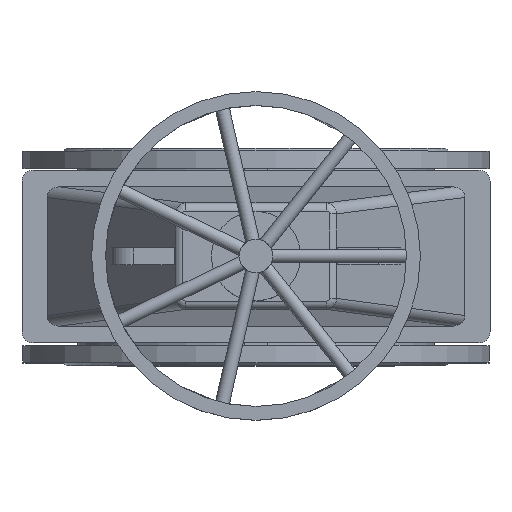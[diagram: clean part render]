
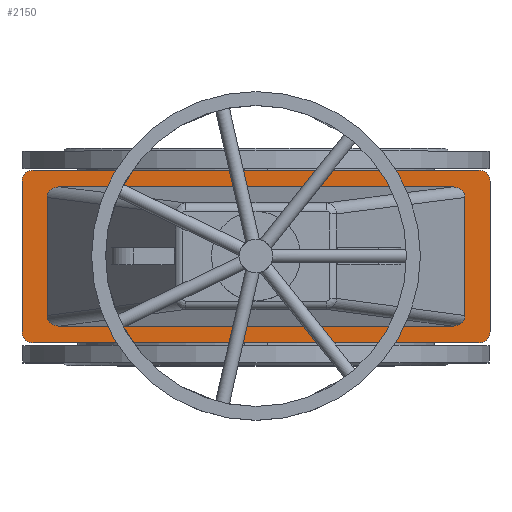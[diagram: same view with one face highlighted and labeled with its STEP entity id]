
A CAD part, top view. The second image highlights one B-rep face of the part: STEP entity #2150.
In plain terms, the highlighted planar face has unit normal (0, 0, 1).
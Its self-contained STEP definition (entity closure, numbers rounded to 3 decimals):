
#2150=ADVANCED_FACE('',(#4766,#4768),#4770,.T.);
#4766=FACE_BOUND('',#4767,.T.);
#4767=EDGE_LOOP('',(#7901,#7902,#7903,#7904,#7905,#7906,#7907,#7908));
#4768=FACE_BOUND('',#4769,.T.);
#4769=EDGE_LOOP('',(#7909,#7910,#7911,#7912,#7913,#7914,#7915,#7916));
#4770=PLANE('',#4771);
#4771=AXIS2_PLACEMENT_3D('',#4772,#4773,#4774);
#4772=CARTESIAN_POINT('',(0.,0.,650.));
#4773=DIRECTION('',(0.,-0.,1.));
#4774=DIRECTION('',(0.,1.,0.));
#7901=ORIENTED_EDGE('',*,*,#8977,.F.);
#7902=ORIENTED_EDGE('',*,*,#8990,.T.);
#7903=ORIENTED_EDGE('',*,*,#8989,.F.);
#7904=ORIENTED_EDGE('',*,*,#8987,.T.);
#7905=ORIENTED_EDGE('',*,*,#8985,.F.);
#7906=ORIENTED_EDGE('',*,*,#8983,.T.);
#7907=ORIENTED_EDGE('',*,*,#8981,.F.);
#7908=ORIENTED_EDGE('',*,*,#8978,.T.);
#7909=ORIENTED_EDGE('',*,*,#8991,.F.);
#7910=ORIENTED_EDGE('',*,*,#8992,.F.);
#7911=ORIENTED_EDGE('',*,*,#8993,.F.);
#7912=ORIENTED_EDGE('',*,*,#8994,.F.);
#7913=ORIENTED_EDGE('',*,*,#8995,.F.);
#7914=ORIENTED_EDGE('',*,*,#8996,.F.);
#7915=ORIENTED_EDGE('',*,*,#8997,.F.);
#7916=ORIENTED_EDGE('',*,*,#8998,.F.);
#8977=EDGE_CURVE('',#10327,#10325,#10329,.F.);
#8978=EDGE_CURVE('',#10330,#10325,#10331,.T.);
#8981=EDGE_CURVE('',#10330,#10333,#10335,.F.);
#8983=EDGE_CURVE('',#10336,#10333,#10338,.T.);
#8985=EDGE_CURVE('',#10336,#10339,#10341,.F.);
#8987=EDGE_CURVE('',#10342,#10339,#10344,.T.);
#8989=EDGE_CURVE('',#10342,#10345,#10347,.F.);
#8990=EDGE_CURVE('',#10327,#10345,#10348,.T.);
#8991=EDGE_CURVE('',#10349,#10350,#10351,.F.);
#8992=EDGE_CURVE('',#10352,#10349,#10353,.T.);
#8993=EDGE_CURVE('',#10354,#10352,#10355,.T.);
#8994=EDGE_CURVE('',#10356,#10354,#10357,.T.);
#8995=EDGE_CURVE('',#10358,#10356,#10359,.F.);
#8996=EDGE_CURVE('',#10360,#10358,#10361,.T.);
#8997=EDGE_CURVE('',#10362,#10360,#10363,.T.);
#8998=EDGE_CURVE('',#10350,#10362,#10364,.T.);
#10325=VERTEX_POINT('',#13779);
#10327=VERTEX_POINT('',#13783);
#10329=CIRCLE('',#13787,20.);
#10330=VERTEX_POINT('',#13791);
#10331=LINE('',#13792,#13793);
#10333=VERTEX_POINT('',#13798);
#10335=CIRCLE('',#13802,20.);
#10336=VERTEX_POINT('',#13806);
#10338=LINE('',#13810,#13811);
#10339=VERTEX_POINT('',#13813);
#10341=CIRCLE('',#13817,20.);
#10342=VERTEX_POINT('',#13821);
#10344=LINE('',#13825,#13826);
#10345=VERTEX_POINT('',#13828);
#10347=CIRCLE('',#13832,20.);
#10348=LINE('',#13836,#13837);
#10349=VERTEX_POINT('',#13839);
#10350=VERTEX_POINT('',#13840);
#10351=(BOUNDED_CURVE()B_SPLINE_CURVE(3,
(#13841,#13842,#13843,#13844),
.UNSPECIFIED.,.F.,.F.)B_SPLINE_CURVE_WITH_KNOTS((4,4),
(0.,1.),
.UNSPECIFIED.)CURVE()GEOMETRIC_REPRESENTATION_ITEM()RATIONAL_B_SPLINE_CURVE((1.,
0.816,0.816,1.))REPRESENTATION_ITEM(''));
#10352=VERTEX_POINT('',#13845);
#10353=LINE('',#13846,#13847);
#10354=VERTEX_POINT('',#13849);
#10355=(BOUNDED_CURVE()B_SPLINE_CURVE(3,
(#13850,#13851,#13852,#13853),
.UNSPECIFIED.,.F.,.F.)B_SPLINE_CURVE_WITH_KNOTS((4,4),
(0.,1.),
.UNSPECIFIED.)CURVE()GEOMETRIC_REPRESENTATION_ITEM()RATIONAL_B_SPLINE_CURVE((1.,
0.816,0.816,1.))REPRESENTATION_ITEM(''));
#10356=VERTEX_POINT('',#13854);
#10357=LINE('',#13855,#13856);
#10358=VERTEX_POINT('',#13858);
#10359=(BOUNDED_CURVE()B_SPLINE_CURVE(3,
(#13859,#13860,#13861,#13862),
.UNSPECIFIED.,.F.,.F.)B_SPLINE_CURVE_WITH_KNOTS((4,4),
(0.,1.),
.UNSPECIFIED.)CURVE()GEOMETRIC_REPRESENTATION_ITEM()RATIONAL_B_SPLINE_CURVE((1.,
0.816,0.816,1.))REPRESENTATION_ITEM(''));
#10360=VERTEX_POINT('',#13863);
#10361=LINE('',#13864,#13865);
#10362=VERTEX_POINT('',#13867);
#10363=(BOUNDED_CURVE()B_SPLINE_CURVE(3,
(#13868,#13869,#13870,#13871),
.UNSPECIFIED.,.F.,.F.)B_SPLINE_CURVE_WITH_KNOTS((4,4),
(0.,1.),
.UNSPECIFIED.)CURVE()GEOMETRIC_REPRESENTATION_ITEM()RATIONAL_B_SPLINE_CURVE((1.,
0.816,0.816,1.))REPRESENTATION_ITEM(''));
#10364=LINE('',#13872,#13873);
#13779=CARTESIAN_POINT('',(-420.,-135.,650.));
#13783=CARTESIAN_POINT('',(-400.,-155.,650.));
#13787=AXIS2_PLACEMENT_3D('',#13788,#13789,#13790);
#13788=CARTESIAN_POINT('',(-400.,-135.,650.));
#13789=DIRECTION('',(0.,-0.,1.));
#13790=DIRECTION('',(-1.,0.,0.));
#13791=CARTESIAN_POINT('',(-420.,135.,650.));
#13792=CARTESIAN_POINT('',(-420.,135.,650.));
#13793=VECTOR('',#13794,1.);
#13794=DIRECTION('',(0.,-1.,0.));
#13798=CARTESIAN_POINT('',(-400.,155.,650.));
#13802=AXIS2_PLACEMENT_3D('',#13803,#13804,#13805);
#13803=CARTESIAN_POINT('',(-400.,135.,650.));
#13804=DIRECTION('',(0.,-0.,1.));
#13805=DIRECTION('',(0.,1.,0.));
#13806=CARTESIAN_POINT('',(400.,155.,650.));
#13810=CARTESIAN_POINT('',(400.,155.,650.));
#13811=VECTOR('',#13812,1.);
#13812=DIRECTION('',(-1.,0.,0.));
#13813=CARTESIAN_POINT('',(420.,135.,650.));
#13817=AXIS2_PLACEMENT_3D('',#13818,#13819,#13820);
#13818=CARTESIAN_POINT('',(400.,135.,650.));
#13819=DIRECTION('',(0.,-0.,1.));
#13820=DIRECTION('',(1.,0.,0.));
#13821=CARTESIAN_POINT('',(420.,-135.,650.));
#13825=CARTESIAN_POINT('',(420.,-135.,650.));
#13826=VECTOR('',#13827,1.);
#13827=DIRECTION('',(0.,1.,0.));
#13828=CARTESIAN_POINT('',(400.,-155.,650.));
#13832=AXIS2_PLACEMENT_3D('',#13833,#13834,#13835);
#13833=CARTESIAN_POINT('',(400.,-135.,650.));
#13834=DIRECTION('',(0.,-0.,1.));
#13835=DIRECTION('',(0.,-1.,0.));
#13836=CARTESIAN_POINT('',(-400.,-155.,650.));
#13837=VECTOR('',#13838,1.);
#13838=DIRECTION('',(1.,0.,0.));
#13839=CARTESIAN_POINT('',(-375.,-105.899,650.));
#13840=CARTESIAN_POINT('',(-352.08,-125.,650.));
#13841=CARTESIAN_POINT('',(-352.08,-125.,650.));
#13842=CARTESIAN_POINT('',(-365.638,-125.,650.));
#13843=CARTESIAN_POINT('',(-375.,-117.198,650.));
#13844=CARTESIAN_POINT('',(-375.,-105.899,650.));
#13845=CARTESIAN_POINT('',(-375.,105.899,650.));
#13846=CARTESIAN_POINT('',(-375.,105.899,650.));
#13847=VECTOR('',#13848,1.);
#13848=DIRECTION('',(0.,-1.,0.));
#13849=CARTESIAN_POINT('',(-352.08,125.,650.));
#13850=CARTESIAN_POINT('',(-352.08,125.,650.));
#13851=CARTESIAN_POINT('',(-365.638,125.,650.));
#13852=CARTESIAN_POINT('',(-375.,117.198,650.));
#13853=CARTESIAN_POINT('',(-375.,105.899,650.));
#13854=CARTESIAN_POINT('',(352.08,125.,650.));
#13855=CARTESIAN_POINT('',(352.08,125.,650.));
#13856=VECTOR('',#13857,1.);
#13857=DIRECTION('',(-1.,0.,0.));
#13858=CARTESIAN_POINT('',(375.,105.899,650.));
#13859=CARTESIAN_POINT('',(352.08,125.,650.));
#13860=CARTESIAN_POINT('',(365.638,125.,650.));
#13861=CARTESIAN_POINT('',(375.,117.198,650.));
#13862=CARTESIAN_POINT('',(375.,105.899,650.));
#13863=CARTESIAN_POINT('',(375.,-105.899,650.));
#13864=CARTESIAN_POINT('',(375.,-105.899,650.));
#13865=VECTOR('',#13866,1.);
#13866=DIRECTION('',(0.,1.,0.));
#13867=CARTESIAN_POINT('',(352.08,-125.,650.));
#13868=CARTESIAN_POINT('',(352.08,-125.,650.));
#13869=CARTESIAN_POINT('',(365.638,-125.,650.));
#13870=CARTESIAN_POINT('',(375.,-117.198,650.));
#13871=CARTESIAN_POINT('',(375.,-105.899,650.));
#13872=CARTESIAN_POINT('',(-352.08,-125.,650.));
#13873=VECTOR('',#13874,1.);
#13874=DIRECTION('',(1.,0.,0.));
